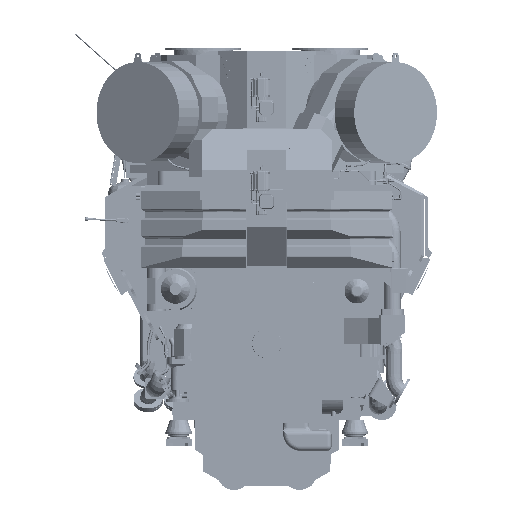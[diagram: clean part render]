
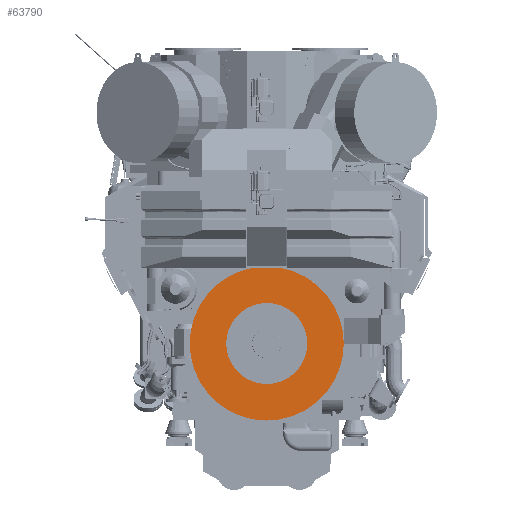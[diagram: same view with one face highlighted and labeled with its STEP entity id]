
A CAD part, left-side view. The second image highlights one B-rep face of the part: STEP entity #63790.
In plain terms, the highlighted planar face has unit normal (-1, 0, 0).
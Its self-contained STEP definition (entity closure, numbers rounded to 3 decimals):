
#24367=CIRCLE('',#347885,656.);
#24369=CIRCLE('',#347888,345.);
#36288=FACE_BOUND('',#101428,.T.);
#36289=FACE_BOUND('',#101429,.T.);
#45688=PLANE('',#347889);
#63790=ADVANCED_FACE('',(#36288,#36289),#45688,.F.);
#101428=EDGE_LOOP('',(#237083));
#101429=EDGE_LOOP('',(#237084));
#237083=ORIENTED_EDGE('',*,*,#312805,.T.);
#237084=ORIENTED_EDGE('',*,*,#312803,.F.);
#269561=VERTEX_POINT('',#669980);
#269563=VERTEX_POINT('',#669985);
#312803=EDGE_CURVE('',#269561,#269561,#24367,.T.);
#312805=EDGE_CURVE('',#269563,#269563,#24369,.T.);
#347885=AXIS2_PLACEMENT_3D('',#669979,#428127,#428128);
#347888=AXIS2_PLACEMENT_3D('',#669984,#428133,#428134);
#347889=AXIS2_PLACEMENT_3D('',#669986,#428135,#428136);
#428127=DIRECTION('',(1.,0.,0.));
#428128=DIRECTION('',(0.,1.,0.));
#428133=DIRECTION('',(1.,0.,0.));
#428134=DIRECTION('',(0.,1.,0.));
#428135=DIRECTION('',(1.,0.,0.));
#428136=DIRECTION('',(0.,0.,-1.));
#669979=CARTESIAN_POINT('',(0.,0.,0.));
#669980=CARTESIAN_POINT('',(0.,656.,0.));
#669984=CARTESIAN_POINT('',(0.,0.,0.));
#669985=CARTESIAN_POINT('',(0.,345.,0.));
#669986=CARTESIAN_POINT('',(0.,0.,0.));
